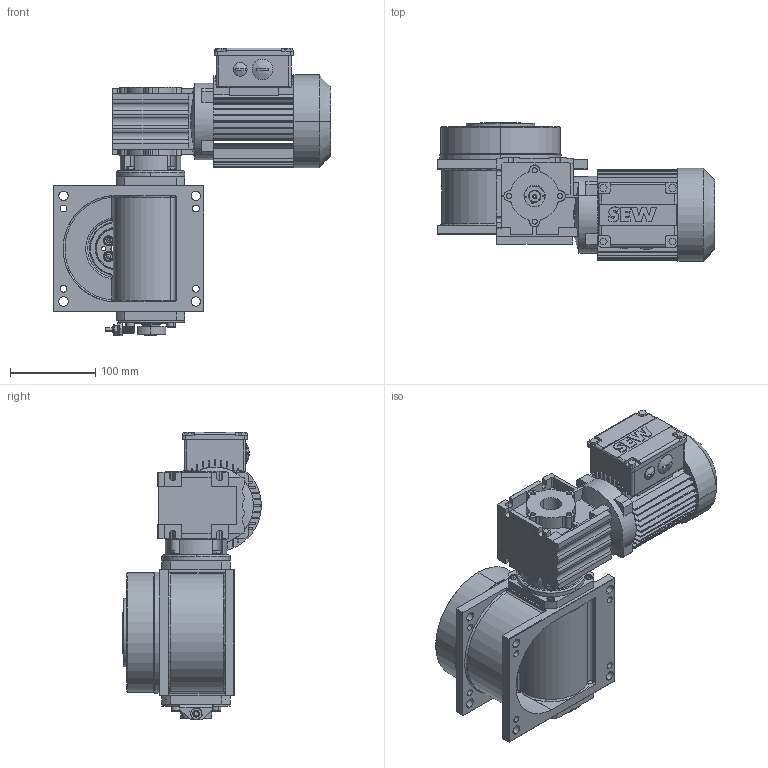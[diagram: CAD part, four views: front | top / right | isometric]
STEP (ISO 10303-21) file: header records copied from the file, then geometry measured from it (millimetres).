
FILE_DESCRIPTION (( 'STEP AP214' ), '1' );
FILE_NAME ('M140_SEW_WAF10DT56L4_E3.STEP', '2021-01-22T15:48:26', ( '' ), ( '' ), 'SwSTEP 2.0', 'SolidWorks 2020', '' );
FILE_SCHEMA (( 'AUTOMOTIVE_DESIGN' ));
Length unit declared in the file: millimetre
Products named in the file (1): M140_SEW_WAF10DT56L4_E3
Bounding box: 325 x 162.7 x 337.29 mm (x, y, z)
Surface area: 389132.5 mm2 (no closed solid volume)
Topology: 0 solids, 48 shells, 1351 faces, 4444 edges, 2967 vertices
Faces by surface type: plane 677, cylinder 475, cone 99, bspline 52, torus 48
Entity records: 69140 total; most frequent: CARTESIAN_POINT 15976, DIRECTION 8032, ORIENTED_EDGE 7507, EDGE_CURVE 4415, VERTEX_POINT 2967, AXIS2_PLACEMENT_3D 2716, VECTOR 2600, LINE 2600
